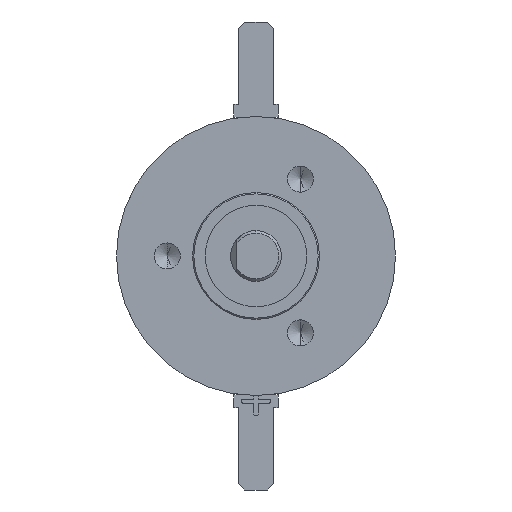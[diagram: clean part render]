
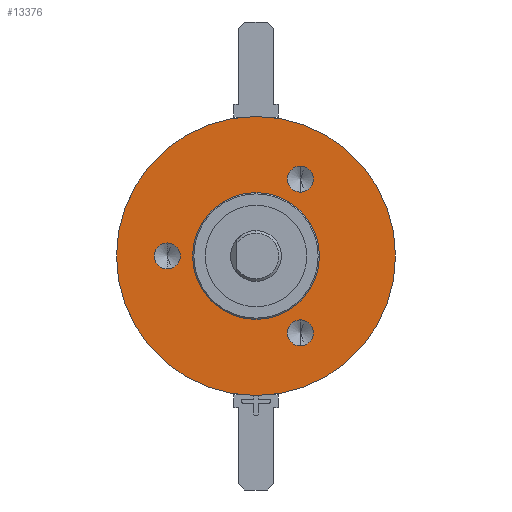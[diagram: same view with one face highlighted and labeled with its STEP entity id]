
A CAD part, left-side view. The second image highlights one B-rep face of the part: STEP entity #13376.
In plain terms, the highlighted planar face has unit normal (-1, 0, 0).
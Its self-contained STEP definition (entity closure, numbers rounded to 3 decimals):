
#211 = AXIS2_PLACEMENT_3D ( 'NONE', #3416, #11917, #4720 ) ;
#633 = CARTESIAN_POINT ( 'NONE',  ( 14.85, -3.5, -5.037 ) ) ;
#1176 = VERTEX_POINT ( 'NONE', #13475 ) ;
#1267 = DIRECTION ( 'NONE',  ( 0., 0., 1. ) ) ;
#1350 = VERTEX_POINT ( 'NONE', #4637 ) ;
#1433 = DIRECTION ( 'NONE',  ( -1., 0., 0. ) ) ;
#1462 = VERTEX_POINT ( 'NONE', #14775 ) ;
#1968 = FACE_BOUND ( 'NONE', #7015, .T. ) ;
#2525 = CARTESIAN_POINT ( 'NONE',  ( 14.85, -3.5, 6.062 ) ) ;
#2942 = ORIENTED_EDGE ( 'NONE', *, *, #7629, .T. ) ;
#3416 = CARTESIAN_POINT ( 'NONE',  ( 14.85, 5., 0. ) ) ;
#3555 = EDGE_LOOP ( 'NONE', ( #15621, #15938 ) ) ;
#3603 = DIRECTION ( 'NONE',  ( -1., 0., 0. ) ) ;
#3836 = DIRECTION ( 'NONE',  ( -1., 0., 0. ) ) ;
#3874 = DIRECTION ( 'NONE',  ( 0., 0., 1. ) ) ;
#4103 = VERTEX_POINT ( 'NONE', #14498 ) ;
#4334 = CIRCLE ( 'NONE', #11725, 1.025 ) ;
#4578 = CIRCLE ( 'NONE', #10521, 1.025 ) ;
#4579 = VERTEX_POINT ( 'NONE', #6478 ) ;
#4637 = CARTESIAN_POINT ( 'NONE',  ( 14.85, 0., -5. ) ) ;
#4720 = DIRECTION ( 'NONE',  ( 0., 0., -1. ) ) ;
#4828 = ORIENTED_EDGE ( 'NONE', *, *, #7535, .F. ) ;
#4995 = CIRCLE ( 'NONE', #10501, 1.025 ) ;
#5087 = CARTESIAN_POINT ( 'NONE',  ( 14.85, 0., 0. ) ) ;
#5159 = VERTEX_POINT ( 'NONE', #9561 ) ;
#5265 = DIRECTION ( 'NONE',  ( -1., 0., 0. ) ) ;
#5432 = FACE_OUTER_BOUND ( 'NONE', #7313, .T. ) ;
#6084 = CARTESIAN_POINT ( 'NONE',  ( 14.85, 0., 5. ) ) ;
#6361 = DIRECTION ( 'NONE',  ( 0., 0., 1. ) ) ;
#6451 = DIRECTION ( 'NONE',  ( -1., 0., 0. ) ) ;
#6478 = CARTESIAN_POINT ( 'NONE',  ( 14.85, 0., 11. ) ) ;
#6686 = ORIENTED_EDGE ( 'NONE', *, *, #7578, .T. ) ;
#6805 = CARTESIAN_POINT ( 'NONE',  ( 14.85, 7., 1.025 ) ) ;
#7015 = EDGE_LOOP ( 'NONE', ( #4828, #10292 ) ) ;
#7169 = EDGE_CURVE ( 'NONE', #1176, #9602, #4334, .T. ) ;
#7236 = CARTESIAN_POINT ( 'NONE',  ( 14.85, 0., 0. ) ) ;
#7246 = EDGE_CURVE ( 'NONE', #1462, #4103, #7678, .T. ) ;
#7313 = EDGE_LOOP ( 'NONE', ( #6686, #2942 ) ) ;
#7320 = EDGE_CURVE ( 'NONE', #14511, #14971, #11121, .T. ) ;
#7354 = EDGE_LOOP ( 'NONE', ( #14563, #11433 ) ) ;
#7462 = DIRECTION ( 'NONE',  ( -1., 0., 0. ) ) ;
#7535 = EDGE_CURVE ( 'NONE', #9035, #1350, #10178, .T. ) ;
#7578 = EDGE_CURVE ( 'NONE', #4579, #5159, #12694, .T. ) ;
#7629 = EDGE_CURVE ( 'NONE', #5159, #4579, #12536, .T. ) ;
#7644 = EDGE_CURVE ( 'NONE', #9602, #1176, #10032, .T. ) ;
#7648 = EDGE_CURVE ( 'NONE', #4103, #1462, #4578, .T. ) ;
#7652 = EDGE_CURVE ( 'NONE', #14971, #14511, #4995, .T. ) ;
#7671 = EDGE_CURVE ( 'NONE', #1350, #9035, #15969, .T. ) ;
#7678 = CIRCLE ( 'NONE', #11651, 1.025 ) ;
#7806 = EDGE_LOOP ( 'NONE', ( #8505, #9687 ) ) ;
#8309 = FACE_BOUND ( 'NONE', #3555, .T. ) ;
#8505 = ORIENTED_EDGE ( 'NONE', *, *, #7648, .F. ) ;
#8511 = DIRECTION ( 'NONE',  ( 0., 0., 1. ) ) ;
#8702 = FACE_BOUND ( 'NONE', #7806, .T. ) ;
#8815 = DIRECTION ( 'NONE',  ( -1., 0., 0. ) ) ;
#8954 = CARTESIAN_POINT ( 'NONE',  ( 14.85, 0., 0. ) ) ;
#9035 = VERTEX_POINT ( 'NONE', #6084 ) ;
#9561 = CARTESIAN_POINT ( 'NONE',  ( 14.85, 0., -11. ) ) ;
#9602 = VERTEX_POINT ( 'NONE', #6805 ) ;
#9687 = ORIENTED_EDGE ( 'NONE', *, *, #7246, .F. ) ;
#10032 = CIRCLE ( 'NONE', #10603, 1.025 ) ;
#10051 = DIRECTION ( 'NONE',  ( 0., 0., 1. ) ) ;
#10178 = CIRCLE ( 'NONE', #10904, 5. ) ;
#10292 = ORIENTED_EDGE ( 'NONE', *, *, #7671, .F. ) ;
#10418 = AXIS2_PLACEMENT_3D ( 'NONE', #8954, #1433, #10051 ) ;
#10501 = AXIS2_PLACEMENT_3D ( 'NONE', #13574, #6451, #14782 ) ;
#10521 = AXIS2_PLACEMENT_3D ( 'NONE', #2525, #11112, #3874 ) ;
#10603 = AXIS2_PLACEMENT_3D ( 'NONE', #15963, #8815, #1267 ) ;
#10624 = AXIS2_PLACEMENT_3D ( 'NONE', #5087, #13467, #6361 ) ;
#10683 = PLANE ( 'NONE',  #211 ) ;
#10795 = AXIS2_PLACEMENT_3D ( 'NONE', #10853, #3603, #12084 ) ;
#10853 = CARTESIAN_POINT ( 'NONE',  ( 14.85, 0., 0. ) ) ;
#10904 = AXIS2_PLACEMENT_3D ( 'NONE', #7236, #15648, #8511 ) ;
#11080 = CARTESIAN_POINT ( 'NONE',  ( 14.85, -3.5, 6.062 ) ) ;
#11112 = DIRECTION ( 'NONE',  ( -1., 0., 0. ) ) ;
#11121 = CIRCLE ( 'NONE', #11625, 1.025 ) ;
#11433 = ORIENTED_EDGE ( 'NONE', *, *, #7169, .F. ) ;
#11625 = AXIS2_PLACEMENT_3D ( 'NONE', #12411, #5265, #13652 ) ;
#11651 = AXIS2_PLACEMENT_3D ( 'NONE', #11080, #3836, #12316 ) ;
#11725 = AXIS2_PLACEMENT_3D ( 'NONE', #14581, #7462, #15876 ) ;
#11917 = DIRECTION ( 'NONE',  ( 1., 0., 0. ) ) ;
#12084 = DIRECTION ( 'NONE',  ( 0., 0., 1. ) ) ;
#12316 = DIRECTION ( 'NONE',  ( 0., 0., 1. ) ) ;
#12411 = CARTESIAN_POINT ( 'NONE',  ( 14.85, -3.5, -6.062 ) ) ;
#12536 = CIRCLE ( 'NONE', #10624, 11. ) ;
#12694 = CIRCLE ( 'NONE', #10795, 11. ) ;
#13376 = ADVANCED_FACE ( 'NONE', ( #14577, #8702, #8309, #1968, #5432 ), #10683, .F. ) ;
#13467 = DIRECTION ( 'NONE',  ( -1., 0., 0. ) ) ;
#13475 = CARTESIAN_POINT ( 'NONE',  ( 14.85, 7., -1.025 ) ) ;
#13574 = CARTESIAN_POINT ( 'NONE',  ( 14.85, -3.5, -6.062 ) ) ;
#13652 = DIRECTION ( 'NONE',  ( 0., 0., 1. ) ) ;
#14498 = CARTESIAN_POINT ( 'NONE',  ( 14.85, -3.5, 7.087 ) ) ;
#14511 = VERTEX_POINT ( 'NONE', #14745 ) ;
#14563 = ORIENTED_EDGE ( 'NONE', *, *, #7644, .F. ) ;
#14577 = FACE_BOUND ( 'NONE', #7354, .T. ) ;
#14581 = CARTESIAN_POINT ( 'NONE',  ( 14.85, 7., 0. ) ) ;
#14745 = CARTESIAN_POINT ( 'NONE',  ( 14.85, -3.5, -7.087 ) ) ;
#14775 = CARTESIAN_POINT ( 'NONE',  ( 14.85, -3.5, 5.037 ) ) ;
#14782 = DIRECTION ( 'NONE',  ( 0., 0., 1. ) ) ;
#14971 = VERTEX_POINT ( 'NONE', #633 ) ;
#15621 = ORIENTED_EDGE ( 'NONE', *, *, #7652, .F. ) ;
#15648 = DIRECTION ( 'NONE',  ( -1., 0., 0. ) ) ;
#15876 = DIRECTION ( 'NONE',  ( 0., 0., 1. ) ) ;
#15938 = ORIENTED_EDGE ( 'NONE', *, *, #7320, .F. ) ;
#15963 = CARTESIAN_POINT ( 'NONE',  ( 14.85, 7., 0. ) ) ;
#15969 = CIRCLE ( 'NONE', #10418, 5. ) ;
